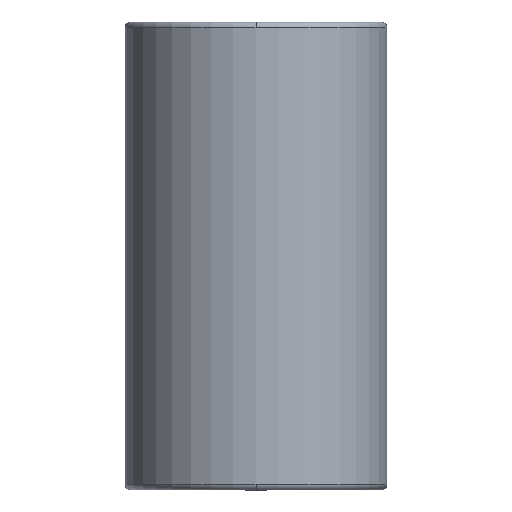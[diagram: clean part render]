
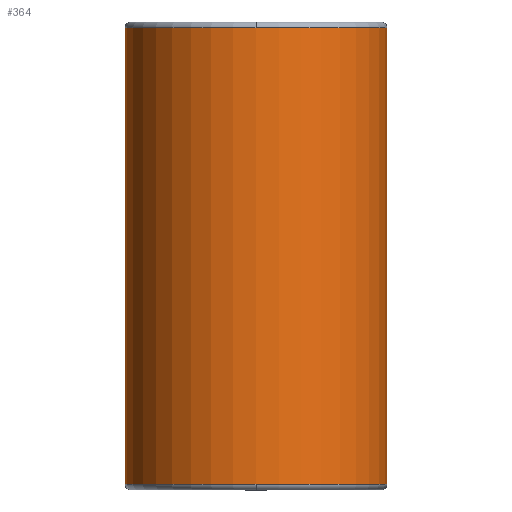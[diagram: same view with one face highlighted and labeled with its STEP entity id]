
A CAD part, front view. The second image highlights one B-rep face of the part: STEP entity #364.
In plain terms, the highlighted cylindrical face has radius 47.492 mm (diameter 94.984 mm), a partial arc.
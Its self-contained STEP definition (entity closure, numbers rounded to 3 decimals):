
#269=CARTESIAN_POINT('',(0.0,-47.492,168.0));
#270=VERTEX_POINT('',#269);
#296=CARTESIAN_POINT('',(-47.492,0.,168.0));
#297=VERTEX_POINT('',#296);
#305=CARTESIAN_POINT('',(0.0,0.,168.0));
#306=DIRECTION('',(0.0,0.0,1.0));
#307=DIRECTION('',(1.0,0.0,0.0));
#308=AXIS2_PLACEMENT_3D('',#305,#306,#307);
#309=CIRCLE('',#308,47.492);
#310=EDGE_CURVE('',#297,#270,#309,.T.);
#315=CARTESIAN_POINT('',(0.0,0.,85.0));
#316=DIRECTION('',(0.0,0.,1.0));
#317=DIRECTION('',(1.0,0.0,0.0));
#318=AXIS2_PLACEMENT_3D('',#315,#316,#317);
#319=CYLINDRICAL_SURFACE('',#318,47.492);
#320=CARTESIAN_POINT('',(47.492,0.,168.0));
#321=VERTEX_POINT('',#320);
#322=CARTESIAN_POINT('',(47.492,0.,2.));
#323=VERTEX_POINT('',#322);
#324=CARTESIAN_POINT('',(47.492,0.,168.0));
#325=DIRECTION('',(0.0,0.0,-1.0));
#326=VECTOR('',#325,166.0);
#327=LINE('',#324,#326);
#328=EDGE_CURVE('',#321,#323,#327,.T.);
#329=ORIENTED_EDGE('',*,*,#328,.F.);
#330=CARTESIAN_POINT('',(0.0,0.,168.0));
#331=DIRECTION('',(0.0,0.0,1.0));
#332=DIRECTION('',(1.0,0.0,0.0));
#333=AXIS2_PLACEMENT_3D('',#330,#331,#332);
#334=CIRCLE('',#333,47.492);
#335=EDGE_CURVE('',#270,#321,#334,.T.);
#336=ORIENTED_EDGE('',*,*,#335,.F.);
#337=ORIENTED_EDGE('',*,*,#310,.F.);
#338=CARTESIAN_POINT('',(-47.492,0.,2.0));
#339=VERTEX_POINT('',#338);
#340=CARTESIAN_POINT('',(-47.492,0.,168.0));
#341=DIRECTION('',(0.0,0.0,-1.0));
#342=VECTOR('',#341,166.0);
#343=LINE('',#340,#342);
#344=EDGE_CURVE('',#297,#339,#343,.T.);
#345=ORIENTED_EDGE('',*,*,#344,.T.);
#346=CARTESIAN_POINT('',(0.0,-47.492,2.));
#347=VERTEX_POINT('',#346);
#348=CARTESIAN_POINT('',(0.0,0.,2.0));
#349=DIRECTION('',(0.0,0.0,1.0));
#350=DIRECTION('',(1.0,0.0,0.0));
#351=AXIS2_PLACEMENT_3D('',#348,#349,#350);
#352=CIRCLE('',#351,47.492);
#353=EDGE_CURVE('',#339,#347,#352,.T.);
#354=ORIENTED_EDGE('',*,*,#353,.T.);
#355=CARTESIAN_POINT('',(0.0,0.,2.0));
#356=DIRECTION('',(0.0,0.0,1.0));
#357=DIRECTION('',(1.0,0.0,0.0));
#358=AXIS2_PLACEMENT_3D('',#355,#356,#357);
#359=CIRCLE('',#358,47.492);
#360=EDGE_CURVE('',#347,#323,#359,.T.);
#361=ORIENTED_EDGE('',*,*,#360,.T.);
#362=EDGE_LOOP('',(#329,#336,#337,#345,#354,#361));
#363=FACE_OUTER_BOUND('',#362,.T.);
#364=ADVANCED_FACE('',(#363),#319,.T.);
